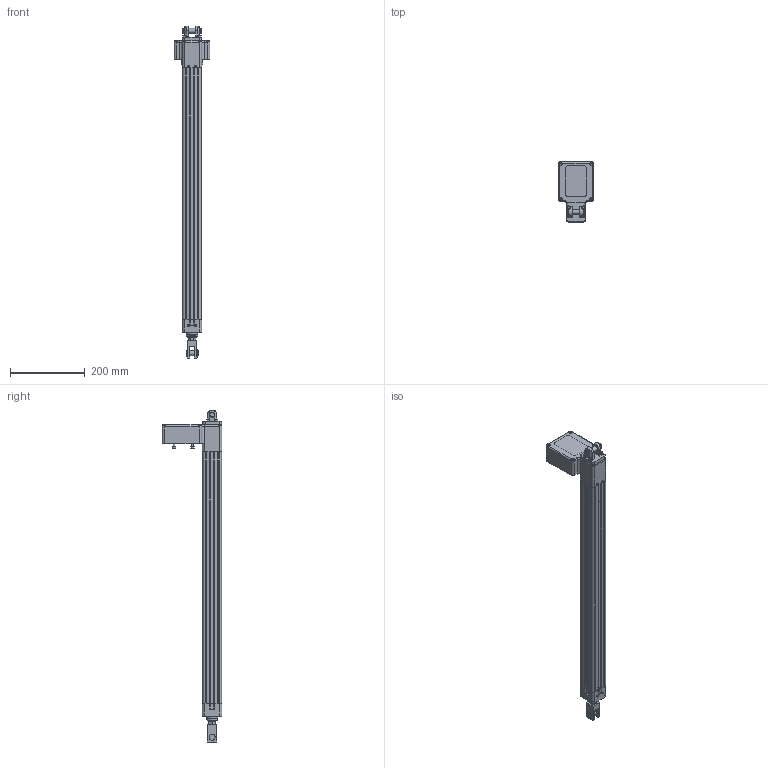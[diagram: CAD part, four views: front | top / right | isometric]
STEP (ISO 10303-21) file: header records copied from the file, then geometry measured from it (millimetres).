
FILE_DESCRIPTION (( 'STEP AP203' ), '1' );
FILE_NAME ('RSA24_BN02_SK24.000_RS-491484-1.step', '2025-06-25T16:00:49', ( '' ), ( '' ), 'SwSTEP 2.0', 'SolidWorks 2024', '' );
FILE_SCHEMA (( 'CONFIG_CONTROL_DESIGN' ));
Length unit declared in the file: inch
Products named in the file (7): Base_RSA24_BN02_SK24.000_RS-491484-1; RSA24_BN02_SK24.000_RS-491484-1; tempJoin6_83169035_RSA24_BN02_SK24.000_RS-491484-1; tempJoin0_11249025_RSA24_BN02_SK24.000_RS-491484-1; 11249029_RSA24_BN02_SK24.000_RS-491484-1; tempJoin0_11249085_RSA24_BN02_SK24.000_RS-491484-1; temp1_11321783_RSA24_BN02_SK24.000_RS-491484-1_YMH-RP
Assembly tree (6 placements, depth 2):
  RSA24_BN02_SK24.000_RS-491484-1
    11249029_RSA24_BN02_SK24.000_RS-491484-1
    tempJoin0_11249025_RSA24_BN02_SK24.000_RS-491484-1
    temp1_11321783_RSA24_BN02_SK24.000_RS-491484-1_YMH-RP
    tempJoin6_83169035_RSA24_BN02_SK24.000_RS-491484-1
    tempJoin0_11249085_RSA24_BN02_SK24.000_RS-491484-1
    Base_RSA24_BN02_SK24.000_RS-491484-1
Bounding box: 96.27 x 159.77 x 889.3 mm (x, y, z)
Volume: 1729314.1 mm3; surface area: 483150.1 mm2
Topology: 16 solids, 19 shells, 918 faces, 2248 edges, 1461 vertices
Faces by surface type: plane 543, cylinder 267, cone 77, bspline 18, torus 11, sphere 2
Full cylindrical faces by diameter (mm): 3.797 x8, 3.967 x1, 4.2 x8, 4.826 x5, 5 x8, 5.105 x4, 5.232 x2, 6.35 x2, 7.925 x1, 7.937 x4, 8.331 x1, 8.5 x16, 8.74 x4, 9.144 x6, 9.652 x4, 9.921 x4, 10 x1, 11.112 x1, 11.113 x1, 12.192 x1, 12.675 x7, 12.7 x2, 13.716 x2, 14 x1, 16.002 x1, 17.462 x1, 17.475 x1, 20.32 x1, 21.844 x1, 24.003 x2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
Entity records: 28099 total; most frequent: CARTESIAN_POINT 6469, DIRECTION 4422, ORIENTED_EDGE 3994, EDGE_CURVE 1997, AXIS2_PLACEMENT_3D 1615, VERTEX_POINT 1382, EDGE_LOOP 1225, VECTOR 1192
